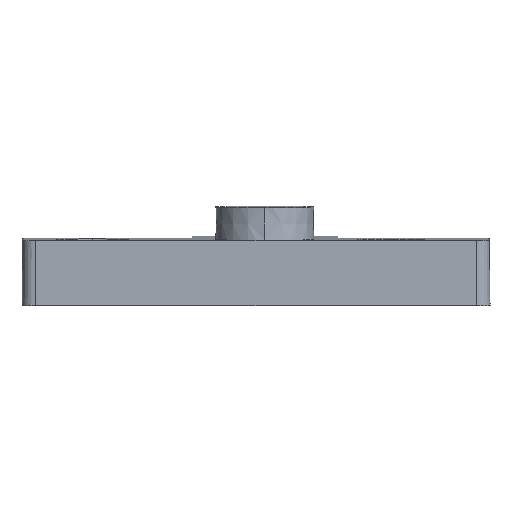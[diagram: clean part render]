
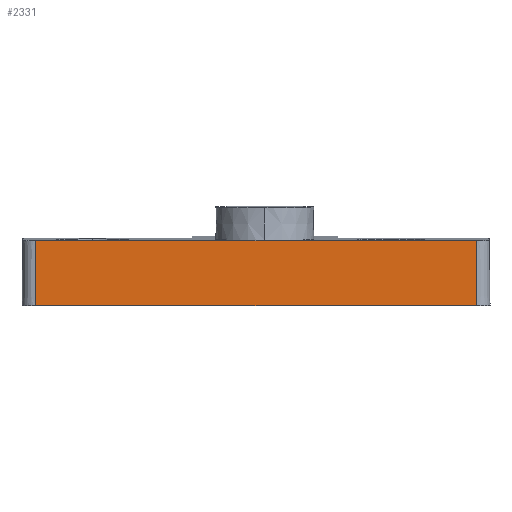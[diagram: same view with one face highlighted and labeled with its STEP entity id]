
A CAD part, top view. The second image highlights one B-rep face of the part: STEP entity #2331.
In plain terms, the highlighted planar face has unit normal (0, -0.009, 1).
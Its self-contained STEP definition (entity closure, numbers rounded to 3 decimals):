
#41 = EDGE_CURVE ( 'NONE', #1021, #1373, #448, .T. ) ;
#49 = PLANE ( 'NONE',  #434 ) ;
#81 = VERTEX_POINT ( 'NONE', #1588 ) ;
#131 = DIRECTION ( 'NONE',  ( 1., 0., 0. ) ) ;
#132 = FACE_OUTER_BOUND ( 'NONE', #361, .T. ) ;
#194 = VECTOR ( 'NONE', #131, 1000. ) ;
#233 = CARTESIAN_POINT ( 'NONE',  ( -55.921, 0., -19.927 ) ) ;
#361 = EDGE_LOOP ( 'NONE', ( #741, #1816, #2031, #2245 ) ) ;
#398 = CARTESIAN_POINT ( 'NONE',  ( -22.421, 0., -19.927 ) ) ;
#434 = AXIS2_PLACEMENT_3D ( 'NONE', #233, #2001, #2427 ) ;
#439 = LINE ( 'NONE', #2086, #194 ) ;
#448 = LINE ( 'NONE', #398, #2421 ) ;
#479 = CARTESIAN_POINT ( 'NONE',  ( -54.921, 0., -19.927 ) ) ;
#734 = DIRECTION ( 'NONE',  ( 1., 0., 0. ) ) ;
#741 = ORIENTED_EDGE ( 'NONE', *, *, #1508, .T. ) ;
#775 = LINE ( 'NONE', #479, #2117 ) ;
#867 = VECTOR ( 'NONE', #734, 1000. ) ;
#930 = LINE ( 'NONE', #1511, #867 ) ;
#1021 = VERTEX_POINT ( 'NONE', #1947 ) ;
#1170 = VERTEX_POINT ( 'NONE', #2133 ) ;
#1281 = DIRECTION ( 'NONE',  ( 0., 1., 0.009 ) ) ;
#1282 = CARTESIAN_POINT ( 'NONE',  ( -22.421, 0., -19.927 ) ) ;
#1373 = VERTEX_POINT ( 'NONE', #1282 ) ;
#1508 = EDGE_CURVE ( 'NONE', #1170, #1373, #439, .T. ) ;
#1511 = CARTESIAN_POINT ( 'NONE',  ( 0., 4.8, -19.885 ) ) ;
#1588 = CARTESIAN_POINT ( 'NONE',  ( -54.921, 4.8, -19.885 ) ) ;
#1816 = ORIENTED_EDGE ( 'NONE', *, *, #41, .F. ) ;
#1848 = EDGE_CURVE ( 'NONE', #1170, #81, #775, .T. ) ;
#1947 = CARTESIAN_POINT ( 'NONE',  ( -22.421, 4.8, -19.885 ) ) ;
#2001 = DIRECTION ( 'NONE',  ( 0., -0.009, 1. ) ) ;
#2031 = ORIENTED_EDGE ( 'NONE', *, *, #2061, .F. ) ;
#2061 = EDGE_CURVE ( 'NONE', #81, #1021, #930, .T. ) ;
#2086 = CARTESIAN_POINT ( 'NONE',  ( -55.921, 0., -19.927 ) ) ;
#2117 = VECTOR ( 'NONE', #1281, 1000. ) ;
#2133 = CARTESIAN_POINT ( 'NONE',  ( -54.921, 0., -19.927 ) ) ;
#2155 = DIRECTION ( 'NONE',  ( 0., -1., -0.009 ) ) ;
#2245 = ORIENTED_EDGE ( 'NONE', *, *, #1848, .F. ) ;
#2331 = ADVANCED_FACE ( 'NONE', ( #132 ), #49, .T. ) ;
#2421 = VECTOR ( 'NONE', #2155, 1000. ) ;
#2427 = DIRECTION ( 'NONE',  ( 0., 1., 0.009 ) ) ;
